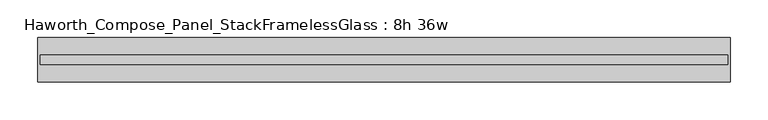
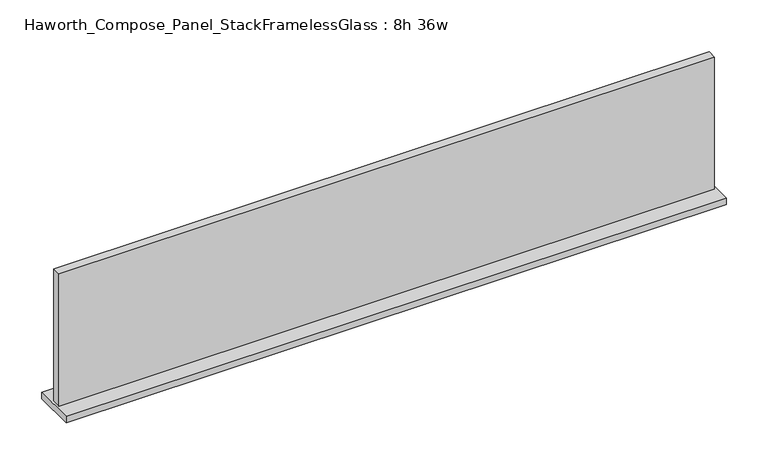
"""IFC4 building model written with IfcOpenShell, lengths in millimetres: furniture geometry, Haworth_Compose_Panel_StackFramelessGlass : 8h 36w."""

from ifc_helpers import new_model, si_unit, frame, origin, place, context, project, spatial, polyline, outline, extrude, source, transform, mapped, element, save


def haworth_compose_panel_stackframelessglass_8h_36w_3db198fe(model_context):
    return source(origin(), model_context, "Body", "SweptSolid", [
        extrude(outline(polyline([(456.4652902, 27.3093594), (456.4652902, 14.6093594), (-451.5847098, 14.6093594), (-451.5847098, 27.3093594), (456.4652902, 27.3093594)])), frame((0.0, 0.0, 1076.325), z_axis=(0.0, 0.0, 1.0), x_axis=(1.0, 0.0, 0.0)), (0.0, 0.0, 1.0), 193.675),
        extrude(outline(polyline([(-454.7597098, 50.3281094), (459.6402902, 50.3281094), (459.6402902, -8.4093906), (-454.7597098, -8.4093906), (-454.7597098, 50.3281094)])), frame((0.0, 0.0, 1066.8), z_axis=(0.0, 0.0, 1.0), x_axis=(1.0, 0.0, 0.0)), (0.0, 0.0, 1.0), 9.525),
    ])


if __name__ == "__main__":
    model = new_model("IFC4")
    model_context = context("Model", 3, world=origin())
    ifc_project = project(units=[si_unit("LENGTHUNIT", "METRE", prefix="MILLI")], contexts=[model_context])
    site = spatial("IfcSite", under=ifc_project)
    building = spatial("IfcBuilding", under=site)
    placement = place(None, origin())
    haworth_compose_panel_stackframelessglass_8h_36w_shape = haworth_compose_panel_stackframelessglass_8h_36w_3db198fe(model_context)
    element("IfcFurniture", 1, ObjectType="Haworth_Compose_Panel_StackFramelessGlass : 8h 36w", at=placement, inside=building, context=model_context, shape_type="MappedRepresentation", body=[
        mapped(haworth_compose_panel_stackframelessglass_8h_36w_shape, transform((0.0, 0.0, 0.0), x_axis=(1.0, 0.0, 0.0), y_axis=(0.0, 1.0, 0.0), z_axis=(0.0, 0.0, 1.0))),
    ])
    save(model, "model.ifc")
